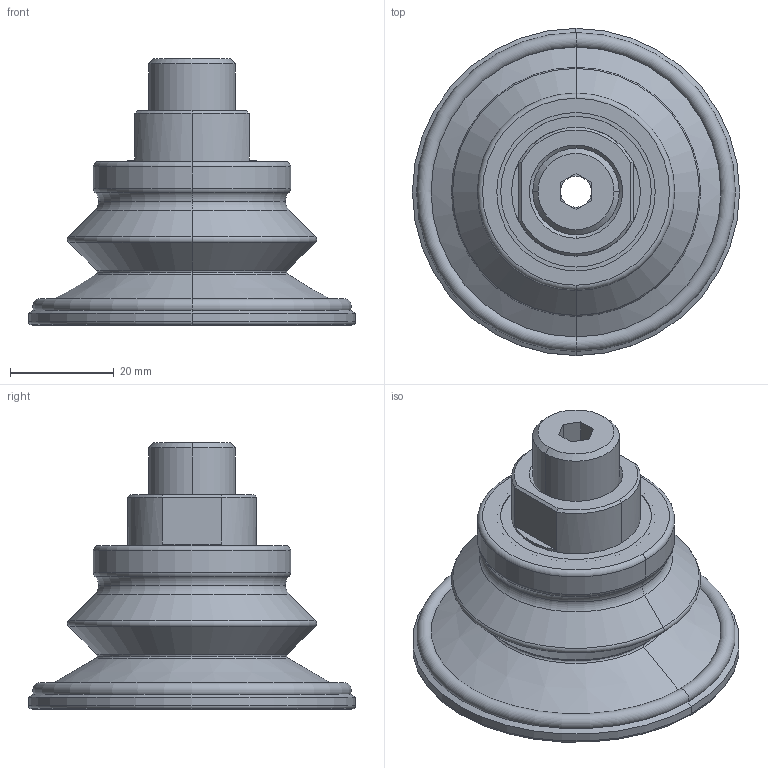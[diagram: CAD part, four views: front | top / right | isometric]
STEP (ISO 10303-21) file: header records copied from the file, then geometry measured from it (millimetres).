
FILE_DESCRIPTION (( 'STEP AP203' ), '1' );
FILE_NAME ('10.01.06.01180K_0_AA.STEP', '2024-10-15T04:38:12', ( 'Windows User' ), ( '' ), 'SwSTEP 2.0', 'SolidWorks 2021', '' );
FILE_SCHEMA (( 'CONFIG_CONTROL_DESIGN' ));
Length unit declared in the file: millimetre
Products named in the file (1): 10.01.06.01180K_0_AA
Bounding box: 63 x 63 x 51.31 mm (x, y, z)
Volume: 46062 mm3; surface area: 18962.2 mm2
Topology: 3 solids, 3 shells, 112 faces, 232 edges, 135 vertices
Faces by surface type: plane 33, torus 32, cylinder 26, cone 21
Entity records: 3062 total; most frequent: DIRECTION 603, CARTESIAN_POINT 492, ORIENTED_EDGE 464, AXIS2_PLACEMENT_3D 262, EDGE_CURVE 232, CIRCLE 149, VERTEX_POINT 135, EDGE_LOOP 127
